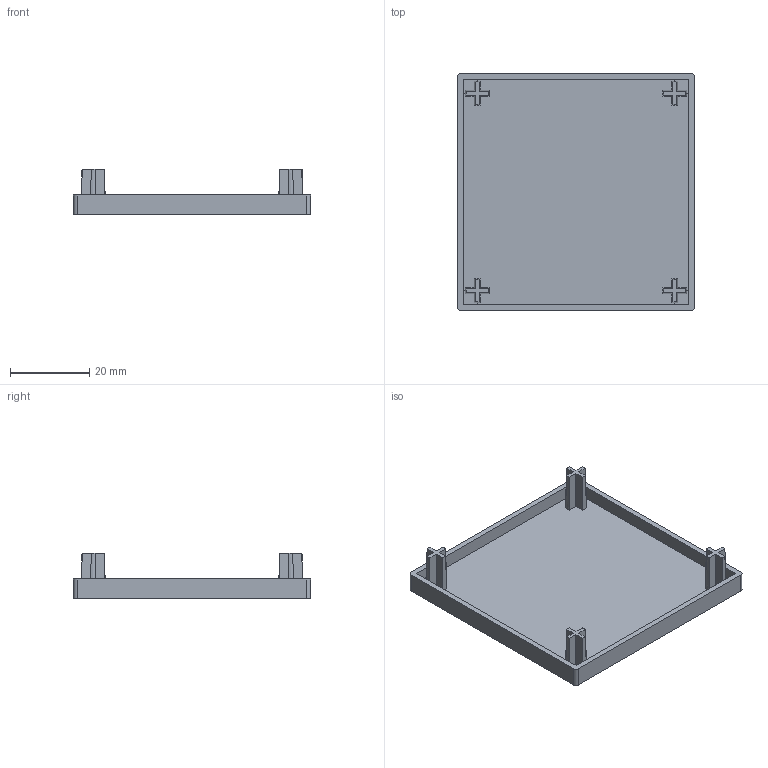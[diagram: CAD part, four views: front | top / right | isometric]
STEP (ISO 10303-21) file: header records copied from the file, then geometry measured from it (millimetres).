
FILE_DESCRIPTION (( 'STEP AP203' ), '1' );
FILE_NAME ('DEC6060.STEP', '2022-06-23T05:39:55', ( '' ), ( '' ), 'SwSTEP 2.0', 'SolidWorks 2017', '' );
FILE_SCHEMA (( 'CONFIG_CONTROL_DESIGN' ));
Length unit declared in the file: millimetre
Products named in the file (1): DEC6060
Bounding box: 60 x 60 x 11.5 mm (x, y, z)
Volume: 7146.9 mm3; surface area: 10091.8 mm2
Topology: 1 solids, 1 shells, 71 faces, 192 edges, 128 vertices
Faces by surface type: plane 47, cone 20, cylinder 4
Entity records: 2311 total; most frequent: CARTESIAN_POINT 456, ORIENTED_EDGE 384, DIRECTION 352, EDGE_CURVE 192, VERTEX_POINT 128, AXIS2_PLACEMENT_3D 120, LINE 112, VECTOR 112
